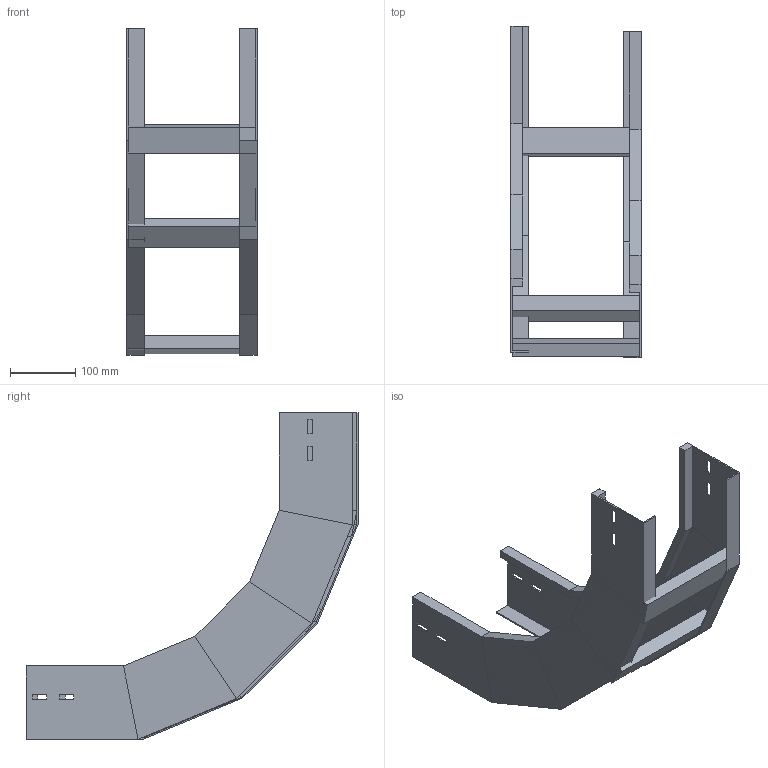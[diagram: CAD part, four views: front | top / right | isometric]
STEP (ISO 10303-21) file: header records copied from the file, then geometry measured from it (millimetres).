
FILE_DESCRIPTION (( 'STEP AP214' ), '1' );
FILE_NAME ('A2X30B3J200XX.step', '2025-04-02T09:09:54', ( '' ), ( '' ), 'SwSTEP 2.0', 'SolidWorks 2023', '' );
FILE_SCHEMA (( 'AUTOMOTIVE_DESIGN' ));
Length unit declared in the file: millimetre
Products named in the file (3): LONGH.SALITA_90°_H112.5_R300; TRAVERSINO_200; A2X30B3J200XX
Assembly tree (5 placements, depth 2):
  A2X30B3J200XX
    LONGH.SALITA_90°_H112.5_R300  x2
    TRAVERSINO_200  x3
Bounding box: 200 x 509.89 x 501.33 mm (x, y, z)
Volume: 1147909.2 mm3; surface area: 543522.1 mm2
Topology: 5 solids, 5 shells, 134 faces, 308 edges, 184 vertices
Faces by surface type: plane 134
Entity records: 1864 total; most frequent: CARTESIAN_POINT 308, ORIENTED_EDGE 296, DIRECTION 292, EDGE_CURVE 148, VECTOR 148, LINE 148, VERTEX_POINT 88, EDGE_LOOP 72
